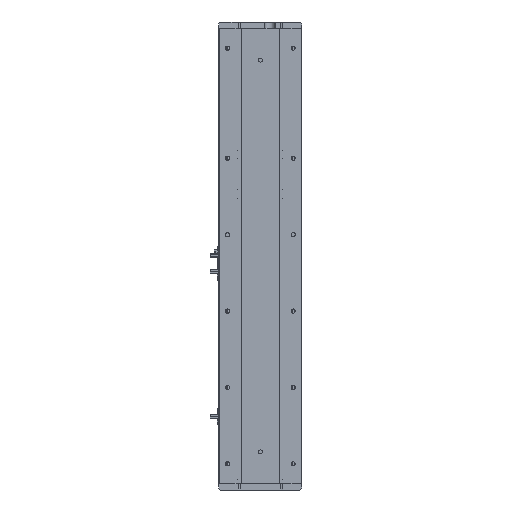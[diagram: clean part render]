
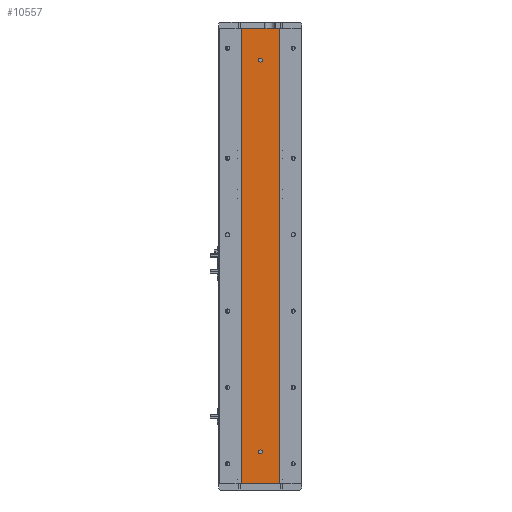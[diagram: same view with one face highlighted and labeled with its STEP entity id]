
A CAD part, left-side view. The second image highlights one B-rep face of the part: STEP entity #10557.
In plain terms, the highlighted planar face has unit normal (-1, 0, 0).
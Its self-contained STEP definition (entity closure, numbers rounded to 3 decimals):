
#148 = CIRCLE ( 'NONE', #11667, 3. ) ;
#203 = ORIENTED_EDGE ( 'NONE', *, *, #13863, .F. ) ;
#1250 = LINE ( 'NONE', #31561, #27020 ) ;
#1384 = CARTESIAN_POINT ( 'NONE',  ( -24.994, -29.785, 0. ) ) ;
#2362 = CARTESIAN_POINT ( 'NONE',  ( -24.994, 0., 50. ) ) ;
#2562 = ORIENTED_EDGE ( 'NONE', *, *, #26312, .F. ) ;
#2862 = VERTEX_POINT ( 'NONE', #31261 ) ;
#4068 = CARTESIAN_POINT ( 'NONE',  ( -24.994, -29.785, 715. ) ) ;
#4414 = AXIS2_PLACEMENT_3D ( 'NONE', #2362, #19837, #4861 ) ;
#4716 = VECTOR ( 'NONE', #11564, 1000. ) ;
#4861 = DIRECTION ( 'NONE',  ( 0., 0., 1. ) ) ;
#5642 = VERTEX_POINT ( 'NONE', #17317 ) ;
#5791 = EDGE_CURVE ( 'NONE', #2862, #17316, #31493, .T. ) ;
#6551 = VECTOR ( 'NONE', #21552, 1000. ) ;
#6643 = DIRECTION ( 'NONE',  ( 0., -1., 0. ) ) ;
#7009 = EDGE_CURVE ( 'NONE', #31710, #18078, #148, .T. ) ;
#7678 = DIRECTION ( 'NONE',  ( 1., 0., 0. ) ) ;
#7976 = DIRECTION ( 'NONE',  ( -1., 0., 0. ) ) ;
#8323 = CIRCLE ( 'NONE', #4414, 3. ) ;
#8458 = DIRECTION ( 'NONE',  ( -1., 0., 0. ) ) ;
#8763 = EDGE_CURVE ( 'NONE', #11632, #21844, #25710, .T. ) ;
#9555 = ORIENTED_EDGE ( 'NONE', *, *, #20802, .F. ) ;
#9757 = CIRCLE ( 'NONE', #29636, 3. ) ;
#10557 = ADVANCED_FACE ( 'NONE', ( #24807, #31463, #17417 ), #25038, .F. ) ;
#11551 = ORIENTED_EDGE ( 'NONE', *, *, #23052, .T. ) ;
#11564 = DIRECTION ( 'NONE',  ( 0., -1., 0. ) ) ;
#11620 = CARTESIAN_POINT ( 'NONE',  ( -24.994, 0., 53. ) ) ;
#11632 = VERTEX_POINT ( 'NONE', #30019 ) ;
#11667 = AXIS2_PLACEMENT_3D ( 'NONE', #12542, #30009, #15053 ) ;
#11871 = EDGE_LOOP ( 'NONE', ( #11551, #17048, #2562, #14705 ) ) ;
#12542 = CARTESIAN_POINT ( 'NONE',  ( -24.994, 0., 50. ) ) ;
#12926 = VECTOR ( 'NONE', #14982, 1000. ) ;
#13863 = EDGE_CURVE ( 'NONE', #18078, #31710, #8323, .T. ) ;
#14705 = ORIENTED_EDGE ( 'NONE', *, *, #15282, .T. ) ;
#14982 = DIRECTION ( 'NONE',  ( 0., 0., -1. ) ) ;
#15053 = DIRECTION ( 'NONE',  ( 0., 0., 1. ) ) ;
#15282 = EDGE_CURVE ( 'NONE', #5642, #19861, #19567, .T. ) ;
#17048 = ORIENTED_EDGE ( 'NONE', *, *, #8763, .F. ) ;
#17316 = VERTEX_POINT ( 'NONE', #19457 ) ;
#17317 = CARTESIAN_POINT ( 'NONE',  ( -24.994, 29.785, 715. ) ) ;
#17417 = FACE_OUTER_BOUND ( 'NONE', #11871, .T. ) ;
#18078 = VERTEX_POINT ( 'NONE', #29997 ) ;
#19172 = AXIS2_PLACEMENT_3D ( 'NONE', #22664, #7678, #25146 ) ;
#19457 = CARTESIAN_POINT ( 'NONE',  ( -24.994, 0., 668. ) ) ;
#19567 = LINE ( 'NONE', #27291, #12926 ) ;
#19837 = DIRECTION ( 'NONE',  ( -1., 0., 0. ) ) ;
#19861 = VERTEX_POINT ( 'NONE', #30791 ) ;
#20802 = EDGE_CURVE ( 'NONE', #17316, #2862, #9757, .T. ) ;
#21487 = CARTESIAN_POINT ( 'NONE',  ( -24.994, 29.785, 715. ) ) ;
#21552 = DIRECTION ( 'NONE',  ( 0., 0., -1. ) ) ;
#21844 = VERTEX_POINT ( 'NONE', #1384 ) ;
#22444 = ORIENTED_EDGE ( 'NONE', *, *, #5791, .F. ) ;
#22664 = CARTESIAN_POINT ( 'NONE',  ( -24.994, 29.785, 715. ) ) ;
#22977 = CARTESIAN_POINT ( 'NONE',  ( -24.994, 0., 665. ) ) ;
#23052 = EDGE_CURVE ( 'NONE', #19861, #21844, #1250, .T. ) ;
#23352 = AXIS2_PLACEMENT_3D ( 'NONE', #22977, #7976, #25471 ) ;
#23431 = CARTESIAN_POINT ( 'NONE',  ( -24.994, 0., 665. ) ) ;
#24807 = FACE_BOUND ( 'NONE', #27817, .T. ) ;
#25038 = PLANE ( 'NONE',  #19172 ) ;
#25146 = DIRECTION ( 'NONE',  ( 0., 0., -1. ) ) ;
#25471 = DIRECTION ( 'NONE',  ( 0., 0., 1. ) ) ;
#25710 = LINE ( 'NONE', #4068, #6551 ) ;
#25916 = DIRECTION ( 'NONE',  ( 0., 0., 1. ) ) ;
#26312 = EDGE_CURVE ( 'NONE', #5642, #11632, #32099, .T. ) ;
#27020 = VECTOR ( 'NONE', #6643, 1000. ) ;
#27291 = CARTESIAN_POINT ( 'NONE',  ( -24.994, 29.785, 715. ) ) ;
#27817 = EDGE_LOOP ( 'NONE', ( #9555, #22444 ) ) ;
#27871 = EDGE_LOOP ( 'NONE', ( #27908, #203 ) ) ;
#27908 = ORIENTED_EDGE ( 'NONE', *, *, #7009, .F. ) ;
#29636 = AXIS2_PLACEMENT_3D ( 'NONE', #23431, #8458, #25916 ) ;
#29997 = CARTESIAN_POINT ( 'NONE',  ( -24.994, 0., 47. ) ) ;
#30009 = DIRECTION ( 'NONE',  ( -1., 0., 0. ) ) ;
#30019 = CARTESIAN_POINT ( 'NONE',  ( -24.994, -29.785, 715. ) ) ;
#30791 = CARTESIAN_POINT ( 'NONE',  ( -24.994, 29.785, 0. ) ) ;
#31261 = CARTESIAN_POINT ( 'NONE',  ( -24.994, 0., 662. ) ) ;
#31463 = FACE_BOUND ( 'NONE', #27871, .T. ) ;
#31493 = CIRCLE ( 'NONE', #23352, 3. ) ;
#31561 = CARTESIAN_POINT ( 'NONE',  ( -24.994, 29.785, 0. ) ) ;
#31710 = VERTEX_POINT ( 'NONE', #11620 ) ;
#32099 = LINE ( 'NONE', #21487, #4716 ) ;
